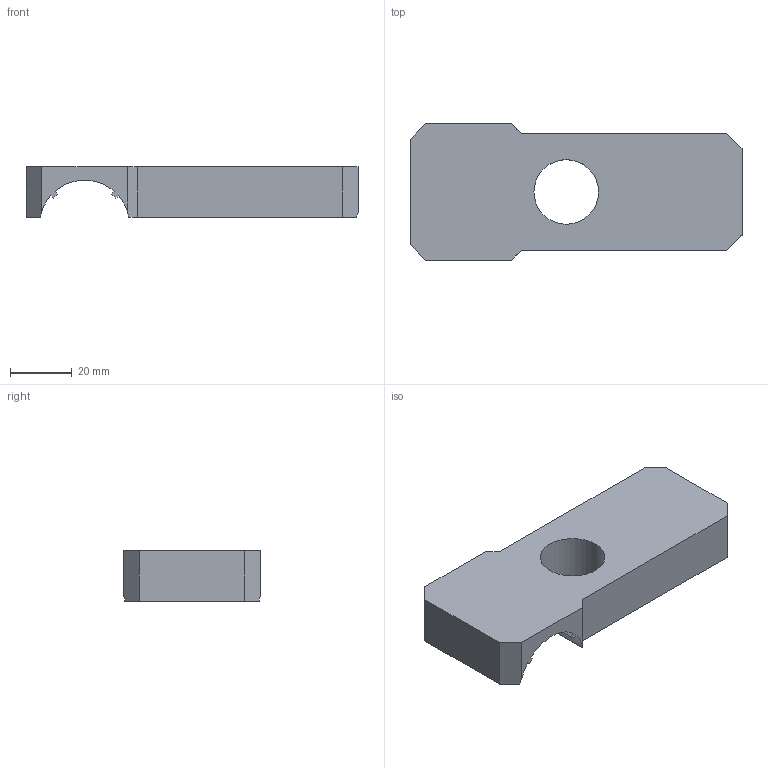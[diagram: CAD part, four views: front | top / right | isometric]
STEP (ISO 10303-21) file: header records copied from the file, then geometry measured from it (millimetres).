
FILE_DESCRIPTION(/* description */ ('STEP AP242 Edition 2','CAx-IF Rec.Pracs.---Representation and Presentation of Product Manufacturing Information (PMI)---4.0---2014-10-13','CAx-IF Rec.Pracs.---3D Tessellated Geometry---0.4---2014-09-14','2;1','CAx-IF Rec.Pracs.---User Defined Attributes---1.5---2016-08-15'),/* implementation_level */ '2;1');
FILE_NAME(/* name */ 'wall corner - boundary corner upper',/* time_stamp */ '2026-06-03T10:26:13Z',/* author */ (''),/* organization */ (''),/* preprocessor_version */ 'ST-DEVELOPER v20',/* originating_system */ 'ONSHAPE BY PTC INC, 1.215',/* authorisation */ ' ');
FILE_SCHEMA (('AP242_MANAGED_MODEL_BASED_3D_ENGINEERING_MIM_LF { 1 0 10303 442 3 1 4 }'));
Length unit declared in the file: metre
Products named in the file (1): boundary corner upper
Bounding box: 107.95 x 44.45 x 16.51 mm (x, y, z)
Volume: 42164.1 mm3; surface area: 14703.4 mm2
Topology: 1 solids, 1 shells, 38 faces, 108 edges, 72 vertices
Faces by surface type: plane 26, cylinder 12
Entity records: 1272 total; most frequent: DIRECTION 220, CARTESIAN_POINT 219, ORIENTED_EDGE 216, EDGE_CURVE 108, LINE 74, VECTOR 74, AXIS2_PLACEMENT_3D 73, VERTEX_POINT 72
